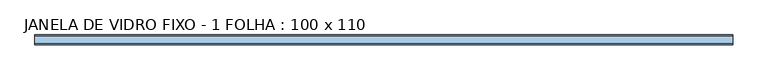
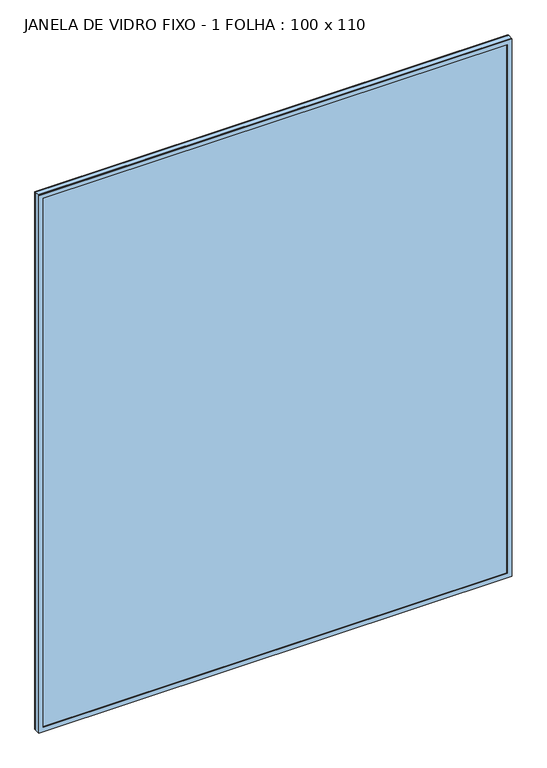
"""IFC4 building model written with IfcOpenShell, lengths in millimetres: window geometry, JANELA DE VIDRO FIXO - 1 FOLHA : 100 x 110."""

from ifc_helpers import new_model, si_unit, frame, origin, place, context, project, spatial, polyline, outline, extrude, source, transform, mapped, element, save


def janela_de_vidro_fixo_1_folha_100_x_110_6122613a(model_context):
    return source(origin(), model_context, "Body", "SweptSolid", [
        extrude(outline(polyline([(490.0, -33.0), (490.0, -43.0), (-510.0, -43.0), (-510.0, -33.0), (490.0, -33.0)])), frame((0.0, 0.0, 1000.0), z_axis=(0.0, 0.0, 1.0), x_axis=(1.0, 0.0, 0.0)), (0.0, 0.0, 1.0), 1200.0),
        extrude(outline(polyline([(2200.0, -510.0), (1000.0, -510.0), (1000.0, 490.0), (2200.0, 490.0), (2200.0, -510.0)]), holes=[polyline([(2190.0, 480.0), (1010.0, 480.0), (1010.0, -500.0), (2190.0, -500.0), (2190.0, 480.0)])]), frame((0.0, -45.0, 0.0), z_axis=(0.0, 1.0, 0.0), x_axis=(0.0, 0.0, 1.0)), (0.0, 0.0, 1.0), 2.0),
        extrude(outline(polyline([(2200.0, -510.0), (1000.0, -510.0), (1000.0, 490.0), (2200.0, 490.0), (2200.0, -510.0)]), holes=[polyline([(2190.0, 480.0), (1010.0, 480.0), (1010.0, -500.0), (2190.0, -500.0), (2190.0, 480.0)])]), frame((0.0, -33.0, 0.0), z_axis=(0.0, 1.0, 0.0), x_axis=(0.0, 0.0, 1.0)), (0.0, 0.0, 1.0), 2.0),
    ])


if __name__ == "__main__":
    model = new_model("IFC4")
    model_context = context("Model", 3, world=origin())
    ifc_project = project(units=[si_unit("LENGTHUNIT", "METRE", prefix="MILLI")], contexts=[model_context])
    site = spatial("IfcSite", under=ifc_project)
    building = spatial("IfcBuilding", under=site)
    placement = place(None, origin())
    janela_de_vidro_fixo_1_folha_100_x_110_shape = janela_de_vidro_fixo_1_folha_100_x_110_6122613a(model_context)
    element("IfcWindow", 1, ObjectType="JANELA DE VIDRO FIXO - 1 FOLHA : 100 x 110", at=placement, inside=building, context=model_context, shape_type="MappedRepresentation", body=[
        mapped(janela_de_vidro_fixo_1_folha_100_x_110_shape, transform((0.0, 0.0, 0.0), x_axis=(1.0, 0.0, 0.0), y_axis=(0.0, 1.0, 0.0), z_axis=(0.0, 0.0, 1.0))),
    ])
    save(model, "model.ifc")
